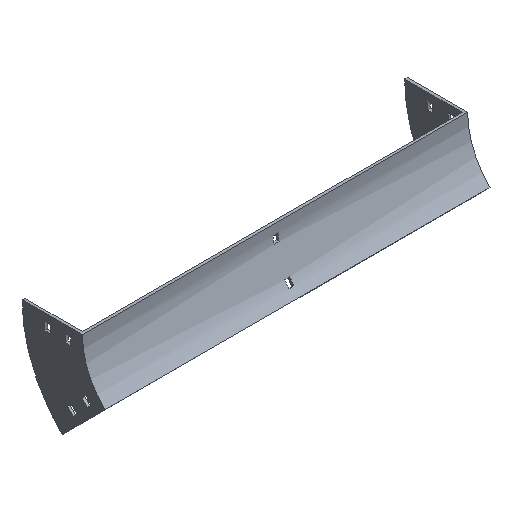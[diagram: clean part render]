
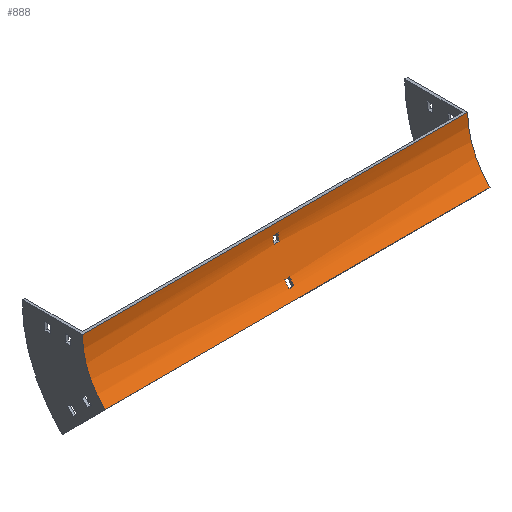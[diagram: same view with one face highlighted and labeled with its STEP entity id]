
A CAD part, isometric view. The second image highlights one B-rep face of the part: STEP entity #888.
In plain terms, the highlighted cylindrical face has radius 100 mm (diameter 200 mm), a partial arc.
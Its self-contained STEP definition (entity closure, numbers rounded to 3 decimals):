
#13 = EDGE_CURVE ( 'NONE', #602, #1429, #997, .T. ) ;
#98 = CARTESIAN_POINT ( 'NONE',  ( 252., -100., 0. ) ) ;
#114 = ORIENTED_EDGE ( 'NONE', *, *, #1575, .T. ) ;
#125 = AXIS2_PLACEMENT_3D ( 'NONE', #640, #1056, #1193 ) ;
#135 = DIRECTION ( 'NONE',  ( -1., 0., 0. ) ) ;
#166 = EDGE_LOOP ( 'NONE', ( #1636, #575, #270, #1356 ) ) ;
#194 = AXIS2_PLACEMENT_3D ( 'NONE', #705, #1126, #1615 ) ;
#195 = CARTESIAN_POINT ( 'NONE',  ( -3.25, -16.017, -54.285 ) ) ;
#201 = CARTESIAN_POINT ( 'NONE',  ( -3.25, -21.315, -61.714 ) ) ;
#204 = CARTESIAN_POINT ( 'NONE',  ( 252., -16.017, -54.285 ) ) ;
#215 = CARTESIAN_POINT ( 'NONE',  ( 3.25, -21.315, -61.714 ) ) ;
#217 = AXIS2_PLACEMENT_3D ( 'NONE', #98, #1538, #1552 ) ;
#220 = AXIS2_PLACEMENT_3D ( 'NONE', #1034, #1294, #1519 ) ;
#270 = ORIENTED_EDGE ( 'NONE', *, *, #1339, .F. ) ;
#275 = DIRECTION ( 'NONE',  ( -1., 0., 0. ) ) ;
#289 = DIRECTION ( 'NONE',  ( -1., 0., 0. ) ) ;
#355 = CARTESIAN_POINT ( 'NONE',  ( -252., 0., 0. ) ) ;
#358 = AXIS2_PLACEMENT_3D ( 'NONE', #544, #1589, #766 ) ;
#364 = VERTEX_POINT ( 'NONE', #782 ) ;
#366 = EDGE_CURVE ( 'NONE', #602, #721, #1168, .T. ) ;
#383 = VERTEX_POINT ( 'NONE', #1420 ) ;
#387 = EDGE_CURVE ( 'NONE', #383, #753, #1219, .T. ) ;
#405 = CARTESIAN_POINT ( 'NONE',  ( 252., -100., 0. ) ) ;
#414 = DIRECTION ( 'NONE',  ( 0., 0., 1. ) ) ;
#428 = VECTOR ( 'NONE', #501, 1000. ) ;
#430 = CIRCLE ( 'NONE', #220, 100. ) ;
#493 = VERTEX_POINT ( 'NONE', #577 ) ;
#501 = DIRECTION ( 'NONE',  ( -1., 0., 0. ) ) ;
#513 = VECTOR ( 'NONE', #729, 1000. ) ;
#523 = VERTEX_POINT ( 'NONE', #215 ) ;
#530 = ORIENTED_EDGE ( 'NONE', *, *, #903, .F. ) ;
#544 = CARTESIAN_POINT ( 'NONE',  ( -3.25, -100., 0. ) ) ;
#545 = LINE ( 'NONE', #1083, #949 ) ;
#562 = CARTESIAN_POINT ( 'NONE',  ( -3.25, -0.723, -12. ) ) ;
#575 = ORIENTED_EDGE ( 'NONE', *, *, #1285, .F. ) ;
#577 = CARTESIAN_POINT ( 'NONE',  ( -252., -29.289, -70.711 ) ) ;
#594 = AXIS2_PLACEMENT_3D ( 'NONE', #405, #275, #649 ) ;
#602 = VERTEX_POINT ( 'NONE', #1640 ) ;
#610 = LINE ( 'NONE', #891, #926 ) ;
#640 = CARTESIAN_POINT ( 'NONE',  ( 3.25, -100., 0. ) ) ;
#649 = DIRECTION ( 'NONE',  ( 0., 0., 1. ) ) ;
#673 = LINE ( 'NONE', #1103, #1308 ) ;
#695 = CARTESIAN_POINT ( 'NONE',  ( 3.25, -2.23, -21. ) ) ;
#705 = CARTESIAN_POINT ( 'NONE',  ( -3.25, -100., 0. ) ) ;
#721 = VERTEX_POINT ( 'NONE', #1457 ) ;
#729 = DIRECTION ( 'NONE',  ( -1., 0., 0. ) ) ;
#753 = VERTEX_POINT ( 'NONE', #695 ) ;
#766 = DIRECTION ( 'NONE',  ( 0., 0., -1. ) ) ;
#770 = LINE ( 'NONE', #1672, #428 ) ;
#782 = CARTESIAN_POINT ( 'NONE',  ( 3.25, -16.017, -54.285 ) ) ;
#784 = DIRECTION ( 'NONE',  ( 1., 0., 0. ) ) ;
#799 = FACE_BOUND ( 'NONE', #166, .T. ) ;
#804 = VERTEX_POINT ( 'NONE', #195 ) ;
#860 = LINE ( 'NONE', #204, #513 ) ;
#870 = CIRCLE ( 'NONE', #1087, 100. ) ;
#886 = ORIENTED_EDGE ( 'NONE', *, *, #13, .T. ) ;
#888 = ADVANCED_FACE ( 'NONE', ( #1298, #1040, #799 ), #1530, .F. ) ;
#891 = CARTESIAN_POINT ( 'NONE',  ( 252., -21.315, -61.714 ) ) ;
#903 = EDGE_CURVE ( 'NONE', #721, #493, #770, .T. ) ;
#926 = VECTOR ( 'NONE', #1397, 1000. ) ;
#946 = CIRCLE ( 'NONE', #194, 100. ) ;
#949 = VECTOR ( 'NONE', #784, 1000. ) ;
#955 = EDGE_CURVE ( 'NONE', #1149, #1314, #946, .T. ) ;
#967 = CARTESIAN_POINT ( 'NONE',  ( 252., 0., 0. ) ) ;
#983 = VERTEX_POINT ( 'NONE', #201 ) ;
#997 = LINE ( 'NONE', #967, #1498 ) ;
#1002 = EDGE_LOOP ( 'NONE', ( #1670, #1200, #114, #1138 ) ) ;
#1034 = CARTESIAN_POINT ( 'NONE',  ( 3.25, -100., 0. ) ) ;
#1040 = FACE_BOUND ( 'NONE', #1002, .T. ) ;
#1056 = DIRECTION ( 'NONE',  ( -1., 0., 0. ) ) ;
#1083 = CARTESIAN_POINT ( 'NONE',  ( 252., -0.723, -12. ) ) ;
#1087 = AXIS2_PLACEMENT_3D ( 'NONE', #1212, #1590, #414 ) ;
#1097 = EDGE_CURVE ( 'NONE', #753, #1149, #673, .T. ) ;
#1103 = CARTESIAN_POINT ( 'NONE',  ( 252., -2.23, -21. ) ) ;
#1126 = DIRECTION ( 'NONE',  ( 1., 0., 0. ) ) ;
#1138 = ORIENTED_EDGE ( 'NONE', *, *, #387, .T. ) ;
#1149 = VERTEX_POINT ( 'NONE', #1371 ) ;
#1155 = EDGE_CURVE ( 'NONE', #983, #523, #610, .T. ) ;
#1168 = CIRCLE ( 'NONE', #594, 100. ) ;
#1193 = DIRECTION ( 'NONE',  ( 0., 0., -1. ) ) ;
#1200 = ORIENTED_EDGE ( 'NONE', *, *, #955, .T. ) ;
#1212 = CARTESIAN_POINT ( 'NONE',  ( -252., -100., 0. ) ) ;
#1219 = CIRCLE ( 'NONE', #125, 100. ) ;
#1226 = CIRCLE ( 'NONE', #358, 100. ) ;
#1285 = EDGE_CURVE ( 'NONE', #364, #804, #860, .T. ) ;
#1294 = DIRECTION ( 'NONE',  ( 1., 0., 0. ) ) ;
#1298 = FACE_OUTER_BOUND ( 'NONE', #1454, .T. ) ;
#1308 = VECTOR ( 'NONE', #135, 1000. ) ;
#1314 = VERTEX_POINT ( 'NONE', #562 ) ;
#1339 = EDGE_CURVE ( 'NONE', #523, #364, #430, .T. ) ;
#1356 = ORIENTED_EDGE ( 'NONE', *, *, #1155, .F. ) ;
#1371 = CARTESIAN_POINT ( 'NONE',  ( -3.25, -2.23, -21. ) ) ;
#1397 = DIRECTION ( 'NONE',  ( 1., 0., 0. ) ) ;
#1420 = CARTESIAN_POINT ( 'NONE',  ( 3.25, -0.723, -12. ) ) ;
#1429 = VERTEX_POINT ( 'NONE', #355 ) ;
#1454 = EDGE_LOOP ( 'NONE', ( #1460, #530, #1688, #886 ) ) ;
#1457 = CARTESIAN_POINT ( 'NONE',  ( 252., -29.289, -70.711 ) ) ;
#1460 = ORIENTED_EDGE ( 'NONE', *, *, #1671, .T. ) ;
#1498 = VECTOR ( 'NONE', #289, 1000. ) ;
#1519 = DIRECTION ( 'NONE',  ( 0., 0., 1. ) ) ;
#1530 = CYLINDRICAL_SURFACE ( 'NONE', #217, 100. ) ;
#1536 = EDGE_CURVE ( 'NONE', #804, #983, #1226, .T. ) ;
#1538 = DIRECTION ( 'NONE',  ( -1., 0., 0. ) ) ;
#1552 = DIRECTION ( 'NONE',  ( 0., 0., 1. ) ) ;
#1575 = EDGE_CURVE ( 'NONE', #1314, #383, #545, .T. ) ;
#1589 = DIRECTION ( 'NONE',  ( -1., 0., 0. ) ) ;
#1590 = DIRECTION ( 'NONE',  ( -1., 0., 0. ) ) ;
#1615 = DIRECTION ( 'NONE',  ( 0., 0., 1. ) ) ;
#1636 = ORIENTED_EDGE ( 'NONE', *, *, #1536, .F. ) ;
#1640 = CARTESIAN_POINT ( 'NONE',  ( 252., 0., 0. ) ) ;
#1670 = ORIENTED_EDGE ( 'NONE', *, *, #1097, .T. ) ;
#1671 = EDGE_CURVE ( 'NONE', #1429, #493, #870, .T. ) ;
#1672 = CARTESIAN_POINT ( 'NONE',  ( 252., -29.289, -70.711 ) ) ;
#1688 = ORIENTED_EDGE ( 'NONE', *, *, #366, .F. ) ;
